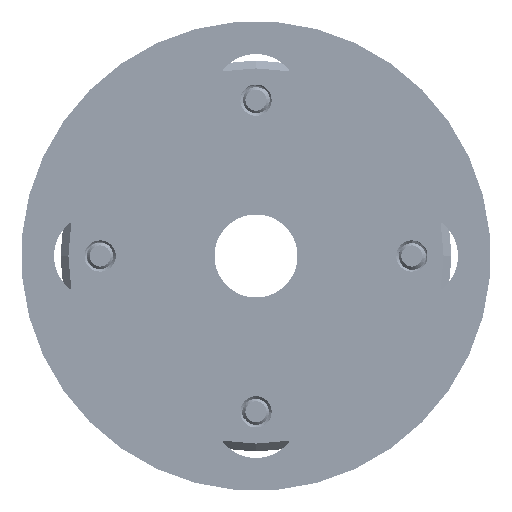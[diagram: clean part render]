
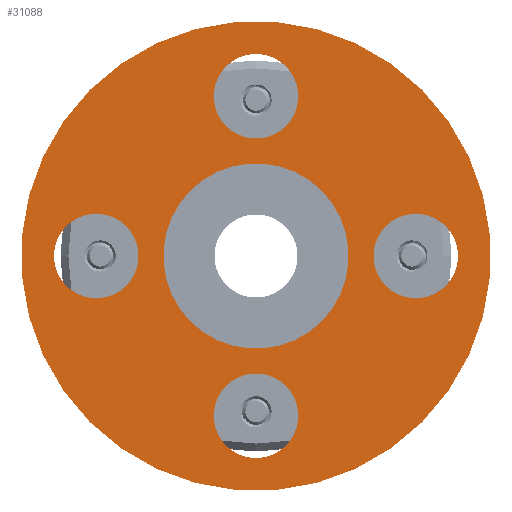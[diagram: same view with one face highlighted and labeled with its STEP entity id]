
A CAD part, front view. The second image highlights one B-rep face of the part: STEP entity #31088.
In plain terms, the highlighted planar face has unit normal (0, -1, 0).
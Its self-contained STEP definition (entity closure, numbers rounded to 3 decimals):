
#1494 = AXIS2_PLACEMENT_3D ( 'NONE', #78253, #103823, #50130 ) ;
#2956 = EDGE_LOOP ( 'NONE', ( #15255, #79031 ) ) ;
#5197 = CIRCLE ( 'NONE', #1494, 44.45 ) ;
#6709 = CARTESIAN_POINT ( 'NONE',  ( 30.88, -215.1, 98.41 ) ) ;
#6842 = CARTESIAN_POINT ( 'NONE',  ( 25.222, -215.1, 73.841 ) ) ;
#7108 = VERTEX_POINT ( 'NONE', #32528 ) ;
#8538 = ORIENTED_EDGE ( 'NONE', *, *, #11848, .F. ) ;
#9675 = EDGE_CURVE ( 'NONE', #85742, #26888, #83101, .T. ) ;
#10110 = EDGE_CURVE ( 'NONE', #7108, #39195, #86762, .T. ) ;
#10642 = DIRECTION ( 'NONE',  ( 0.707, 0., -0.707 ) ) ;
#10663 = DIRECTION ( 'NONE',  ( 0., -1., 0. ) ) ;
#11848 = EDGE_CURVE ( 'NONE', #39195, #7108, #69399, .T. ) ;
#11904 = DIRECTION ( 'NONE',  ( 0.707, 0., -0.707 ) ) ;
#13165 = VERTEX_POINT ( 'NONE', #6709 ) ;
#15255 = ORIENTED_EDGE ( 'NONE', *, *, #110464, .T. ) ;
#15881 = CIRCLE ( 'NONE', #41348, 8.001 ) ;
#16864 = CARTESIAN_POINT ( 'NONE',  ( 25.222, -215.1, 73.841 ) ) ;
#19078 = DIRECTION ( 'NONE',  ( 0., -1., 0. ) ) ;
#20741 = VERTEX_POINT ( 'NONE', #35522 ) ;
#21111 = DIRECTION ( 'NONE',  ( 0., -1., 0. ) ) ;
#24484 = EDGE_CURVE ( 'NONE', #13165, #61547, #15881, .T. ) ;
#25330 = VERTEX_POINT ( 'NONE', #102840 ) ;
#25345 = DIRECTION ( 'NONE',  ( 0.707, 0., -0.707 ) ) ;
#26546 = DIRECTION ( 'NONE',  ( 0.707, 0., -0.707 ) ) ;
#26667 = CARTESIAN_POINT ( 'NONE',  ( 25.222, -215.1, 43.615 ) ) ;
#26888 = VERTEX_POINT ( 'NONE', #87159 ) ;
#29967 = ORIENTED_EDGE ( 'NONE', *, *, #91017, .F. ) ;
#31023 = DIRECTION ( 'NONE',  ( 0., -1., 0. ) ) ;
#31088 = ADVANCED_FACE ( 'NONE', ( #56596, #92033, #67995, #39339, #50211, #93713 ), #65743, .T. ) ;
#32475 = DIRECTION ( 'NONE',  ( 0., -1., 0. ) ) ;
#32528 = CARTESIAN_POINT ( 'NONE',  ( 19.564, -215.1, 49.273 ) ) ;
#33755 = AXIS2_PLACEMENT_3D ( 'NONE', #101007, #67914, #49010 ) ;
#34518 = DIRECTION ( 'NONE',  ( 0., -1., 0. ) ) ;
#35423 = CARTESIAN_POINT ( 'NONE',  ( 55.448, -215.1, 73.841 ) ) ;
#35522 = CARTESIAN_POINT ( 'NONE',  ( 12.829, -215.1, 86.234 ) ) ;
#36781 = DIRECTION ( 'NONE',  ( 0.707, 0., -0.707 ) ) ;
#36858 = CARTESIAN_POINT ( 'NONE',  ( 25.222, -215.1, 104.067 ) ) ;
#38430 = CARTESIAN_POINT ( 'NONE',  ( 19.564, -215.1, 109.725 ) ) ;
#39195 = VERTEX_POINT ( 'NONE', #91419 ) ;
#39236 = ORIENTED_EDGE ( 'NONE', *, *, #89016, .F. ) ;
#39339 = FACE_BOUND ( 'NONE', #41498, .T. ) ;
#40952 = AXIS2_PLACEMENT_3D ( 'NONE', #73852, #52905, #10642 ) ;
#41348 = AXIS2_PLACEMENT_3D ( 'NONE', #36858, #10663, #63268 ) ;
#41498 = EDGE_LOOP ( 'NONE', ( #86820, #29967 ) ) ;
#41886 = CARTESIAN_POINT ( 'NONE',  ( 56.653, -215.1, 42.41 ) ) ;
#42682 = DIRECTION ( 'NONE',  ( 0., -1., 0. ) ) ;
#44504 = VERTEX_POINT ( 'NONE', #102885 ) ;
#45735 = CIRCLE ( 'NONE', #53032, 8.001 ) ;
#46486 = CARTESIAN_POINT ( 'NONE',  ( 25.222, -215.1, 73.841 ) ) ;
#47421 = CARTESIAN_POINT ( 'NONE',  ( -5.004, -215.1, 73.841 ) ) ;
#49010 = DIRECTION ( 'NONE',  ( 0.707, 0., -0.707 ) ) ;
#49089 = DIRECTION ( 'NONE',  ( 0.707, 0., -0.707 ) ) ;
#50130 = DIRECTION ( 'NONE',  ( 0.707, 0., -0.707 ) ) ;
#50211 = FACE_BOUND ( 'NONE', #85535, .T. ) ;
#51319 = CARTESIAN_POINT ( 'NONE',  ( 37.615, -215.1, 61.449 ) ) ;
#52741 = EDGE_CURVE ( 'NONE', #61547, #13165, #66890, .T. ) ;
#52905 = DIRECTION ( 'NONE',  ( 0., -1., 0. ) ) ;
#53032 = AXIS2_PLACEMENT_3D ( 'NONE', #107298, #55286, #11904 ) ;
#55286 = DIRECTION ( 'NONE',  ( 0., -1., 0. ) ) ;
#56071 = ORIENTED_EDGE ( 'NONE', *, *, #10110, .F. ) ;
#56596 = FACE_BOUND ( 'NONE', #82660, .T. ) ;
#56723 = AXIS2_PLACEMENT_3D ( 'NONE', #46486, #31023, #81502 ) ;
#57047 = EDGE_CURVE ( 'NONE', #20741, #82295, #77562, .T. ) ;
#59927 = EDGE_LOOP ( 'NONE', ( #8538, #56071 ) ) ;
#60900 = CARTESIAN_POINT ( 'NONE',  ( 25.222, -215.1, 104.067 ) ) ;
#61547 = VERTEX_POINT ( 'NONE', #38430 ) ;
#61607 = DIRECTION ( 'NONE',  ( 0.707, 0., -0.707 ) ) ;
#61993 = ORIENTED_EDGE ( 'NONE', *, *, #101466, .F. ) ;
#62935 = DIRECTION ( 'NONE',  ( 0.707, 0., -0.707 ) ) ;
#63268 = DIRECTION ( 'NONE',  ( 0.707, 0., -0.707 ) ) ;
#65259 = DIRECTION ( 'NONE',  ( 0.707, 0., -0.707 ) ) ;
#65743 = PLANE ( 'NONE',  #94627 ) ;
#65880 = CIRCLE ( 'NONE', #56723, 44.45 ) ;
#66890 = CIRCLE ( 'NONE', #78130, 8.001 ) ;
#67914 = DIRECTION ( 'NONE',  ( 0., -1., 0. ) ) ;
#67995 = FACE_BOUND ( 'NONE', #59927, .T. ) ;
#69399 = CIRCLE ( 'NONE', #103988, 8.001 ) ;
#70173 = AXIS2_PLACEMENT_3D ( 'NONE', #35423, #21111, #62935 ) ;
#70544 = CARTESIAN_POINT ( 'NONE',  ( 25.222, -215.1, 73.841 ) ) ;
#70825 = VERTEX_POINT ( 'NONE', #107150 ) ;
#73852 = CARTESIAN_POINT ( 'NONE',  ( 55.448, -215.1, 73.841 ) ) ;
#73860 = DIRECTION ( 'NONE',  ( 0., -1., 0. ) ) ;
#75261 = EDGE_LOOP ( 'NONE', ( #61993, #103006 ) ) ;
#77491 = CIRCLE ( 'NONE', #70173, 8.001 ) ;
#77562 = CIRCLE ( 'NONE', #104815, 17.526 ) ;
#78130 = AXIS2_PLACEMENT_3D ( 'NONE', #60900, #34518, #26546 ) ;
#78253 = CARTESIAN_POINT ( 'NONE',  ( 25.222, -215.1, 73.841 ) ) ;
#79031 = ORIENTED_EDGE ( 'NONE', *, *, #87846, .T. ) ;
#80330 = ORIENTED_EDGE ( 'NONE', *, *, #57047, .F. ) ;
#80600 = EDGE_CURVE ( 'NONE', #25330, #70825, #90354, .T. ) ;
#81502 = DIRECTION ( 'NONE',  ( 0.707, 0., -0.707 ) ) ;
#82295 = VERTEX_POINT ( 'NONE', #51319 ) ;
#82660 = EDGE_LOOP ( 'NONE', ( #89812, #94800 ) ) ;
#83101 = CIRCLE ( 'NONE', #90328, 8.001 ) ;
#85450 = CARTESIAN_POINT ( 'NONE',  ( -10.662, -215.1, 79.499 ) ) ;
#85535 = EDGE_LOOP ( 'NONE', ( #80330, #39236 ) ) ;
#85742 = VERTEX_POINT ( 'NONE', #85450 ) ;
#86762 = CIRCLE ( 'NONE', #33755, 8.001 ) ;
#86820 = ORIENTED_EDGE ( 'NONE', *, *, #80600, .F. ) ;
#87159 = CARTESIAN_POINT ( 'NONE',  ( 0.654, -215.1, 68.184 ) ) ;
#87846 = EDGE_CURVE ( 'NONE', #44504, #113028, #65880, .T. ) ;
#89016 = EDGE_CURVE ( 'NONE', #82295, #20741, #112106, .T. ) ;
#89812 = ORIENTED_EDGE ( 'NONE', *, *, #24484, .F. ) ;
#90328 = AXIS2_PLACEMENT_3D ( 'NONE', #47421, #73860, #65259 ) ;
#90354 = CIRCLE ( 'NONE', #40952, 8.001 ) ;
#91017 = EDGE_CURVE ( 'NONE', #70825, #25330, #77491, .T. ) ;
#91419 = CARTESIAN_POINT ( 'NONE',  ( 30.88, -215.1, 37.958 ) ) ;
#92033 = FACE_BOUND ( 'NONE', #75261, .T. ) ;
#93713 = FACE_OUTER_BOUND ( 'NONE', #2956, .T. ) ;
#94627 = AXIS2_PLACEMENT_3D ( 'NONE', #6842, #32475, #49089 ) ;
#94800 = ORIENTED_EDGE ( 'NONE', *, *, #52741, .F. ) ;
#101007 = CARTESIAN_POINT ( 'NONE',  ( 25.222, -215.1, 43.615 ) ) ;
#101466 = EDGE_CURVE ( 'NONE', #26888, #85742, #45735, .T. ) ;
#102840 = CARTESIAN_POINT ( 'NONE',  ( 61.106, -215.1, 68.184 ) ) ;
#102885 = CARTESIAN_POINT ( 'NONE',  ( -6.209, -215.1, 105.272 ) ) ;
#103006 = ORIENTED_EDGE ( 'NONE', *, *, #9675, .F. ) ;
#103823 = DIRECTION ( 'NONE',  ( 0., -1., 0. ) ) ;
#103988 = AXIS2_PLACEMENT_3D ( 'NONE', #26667, #42682, #61607 ) ;
#104815 = AXIS2_PLACEMENT_3D ( 'NONE', #70544, #112769, #25345 ) ;
#107150 = CARTESIAN_POINT ( 'NONE',  ( 49.79, -215.1, 79.499 ) ) ;
#107298 = CARTESIAN_POINT ( 'NONE',  ( -5.004, -215.1, 73.841 ) ) ;
#108470 = AXIS2_PLACEMENT_3D ( 'NONE', #16864, #19078, #36781 ) ;
#110464 = EDGE_CURVE ( 'NONE', #113028, #44504, #5197, .T. ) ;
#112106 = CIRCLE ( 'NONE', #108470, 17.526 ) ;
#112769 = DIRECTION ( 'NONE',  ( 0., -1., 0. ) ) ;
#113028 = VERTEX_POINT ( 'NONE', #41886 ) ;
